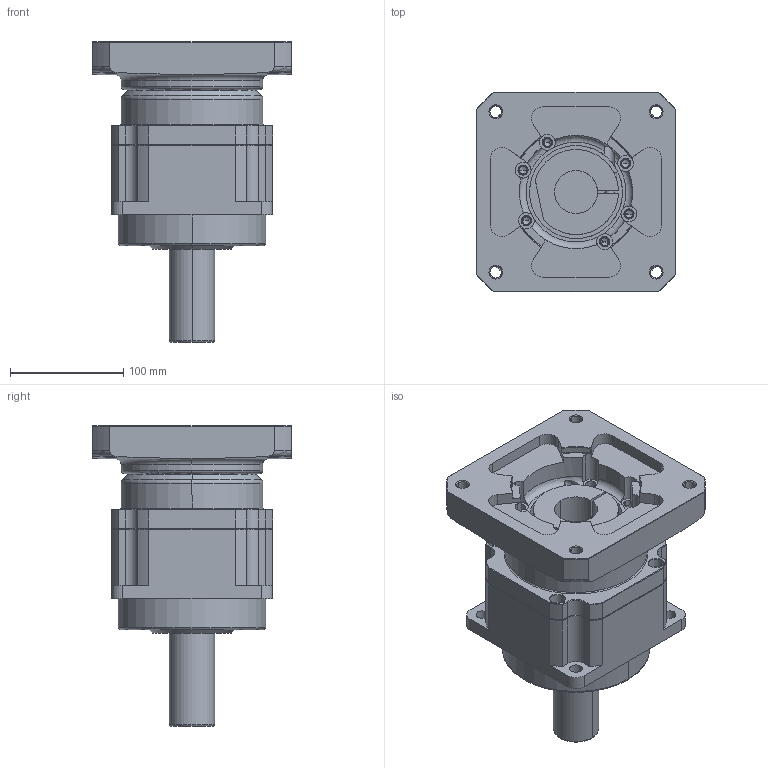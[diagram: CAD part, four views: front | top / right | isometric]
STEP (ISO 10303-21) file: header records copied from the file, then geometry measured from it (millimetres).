
FILE_DESCRIPTION((''),'2;1');
FILE_NAME('AF1401-P0403500801_ASM','2008-09-18T',('d00080'),(''),'PRO/ENGINEER BY PARAMETRIC TECHNOLOGY CORPORATION, 2006170','PRO/ENGINEER BY PARAMETRIC TECHNOLOGY CORPORATION, 2006170','');
FILE_SCHEMA(('CONFIG_CONTROL_DESIGN'));
Length unit declared in the file: millimetre
Products named in the file (4): AF1401; P1301500001; P0403500801; AF1401-P0403500801_ASM
Assembly tree (3 placements, depth 2):
  AF1401-P0403500801_ASM
    AF1401
    P1301500001
    P0403500801
Bounding box: 176 x 176 x 264.5 mm (x, y, z)
Volume: 2620782.3 mm3; surface area: 285618.4 mm2
Topology: 3 solids, 14 shells, 496 faces, 1223 edges, 753 vertices
Faces by surface type: cylinder 202, plane 116, cone 102, torus 74, bspline 2
Entity records: 15506 total; most frequent: CARTESIAN_POINT 3385, DIRECTION 2721, ORIENTED_EDGE 2372, EDGE_CURVE 1209, AXIS2_PLACEMENT_3D 1124, VERTEX_POINT 753, CIRCLE 617, EDGE_LOOP 574
